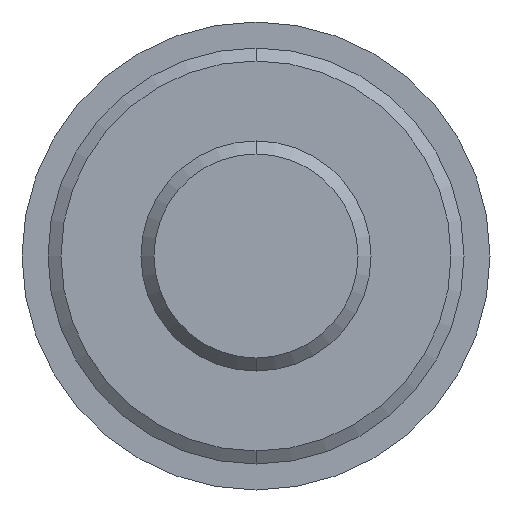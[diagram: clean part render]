
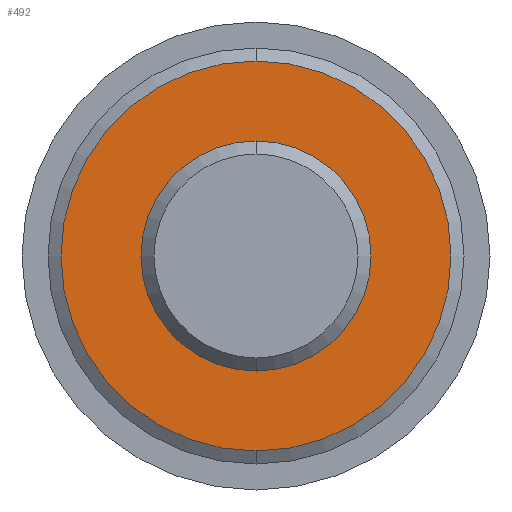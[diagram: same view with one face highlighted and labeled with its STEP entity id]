
A CAD part, front view. The second image highlights one B-rep face of the part: STEP entity #492.
In plain terms, the highlighted planar face has unit normal (0, -1, 0).
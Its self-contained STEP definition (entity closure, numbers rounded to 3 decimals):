
#133=CARTESIAN_POINT('',(0.,0.595,0.));
#134=DIRECTION('',(0.,-1.,0.));
#135=DIRECTION('',(0.,0.,-1.));
#136=AXIS2_PLACEMENT_3D('',#133,#134,#135);
#146=CARTESIAN_POINT('',(0.,0.595,0.));
#147=DIRECTION('',(0.,1.,0.));
#148=DIRECTION('',(0.,0.,-1.));
#149=AXIS2_PLACEMENT_3D('',#146,#147,#148);
#151=CARTESIAN_POINT('',(0.,0.595,0.));
#152=DIRECTION('',(0.,-1.,0.));
#153=DIRECTION('',(0.,0.,-1.));
#154=AXIS2_PLACEMENT_3D('',#151,#152,#153);
#156=CARTESIAN_POINT('',(0.,0.595,0.));
#157=DIRECTION('',(0.,1.,0.));
#158=DIRECTION('',(0.,0.,-1.));
#159=AXIS2_PLACEMENT_3D('',#156,#157,#158);
#207=CARTESIAN_POINT('',(0.,0.595,-0.885));
#208=VERTEX_POINT('',#207);
#209=CARTESIAN_POINT('',(0.,0.595,-1.5));
#211=VERTEX_POINT('',#209);
#233=CARTESIAN_POINT('',(0.,0.595,0.885));
#234=VERTEX_POINT('',#233);
#235=CARTESIAN_POINT('',(0.,0.595,1.5));
#237=VERTEX_POINT('',#235);
#477=CARTESIAN_POINT('',(0.,0.595,0.));
#478=DIRECTION('',(0.,-1.,0.));
#479=DIRECTION('',(0.,0.,1.));
#480=AXIS2_PLACEMENT_3D('',#477,#478,#479);
#481=PLANE('',#480);
#482=ORIENTED_EDGE('',*,*,#472,.T.);
#483=ORIENTED_EDGE('',*,*,#456,.F.);
#484=EDGE_LOOP('',(#482,#483));
#485=FACE_OUTER_BOUND('',#484,.F.);
#487=ORIENTED_EDGE('',*,*,#486,.T.);
#489=ORIENTED_EDGE('',*,*,#488,.F.);
#490=EDGE_LOOP('',(#487,#489));
#491=FACE_BOUND('',#490,.F.);
#492=ADVANCED_FACE('',(#485,#491),#481,.T.);
#137=CIRCLE('',#136,1.5);
#150=CIRCLE('',#149,1.5);
#155=CIRCLE('',#154,0.885);
#160=CIRCLE('',#159,0.885);
#456=EDGE_CURVE('',#211,#237,#137,.T.);
#472=EDGE_CURVE('',#211,#237,#150,.T.);
#486=EDGE_CURVE('',#208,#234,#155,.T.);
#488=EDGE_CURVE('',#208,#234,#160,.T.);
